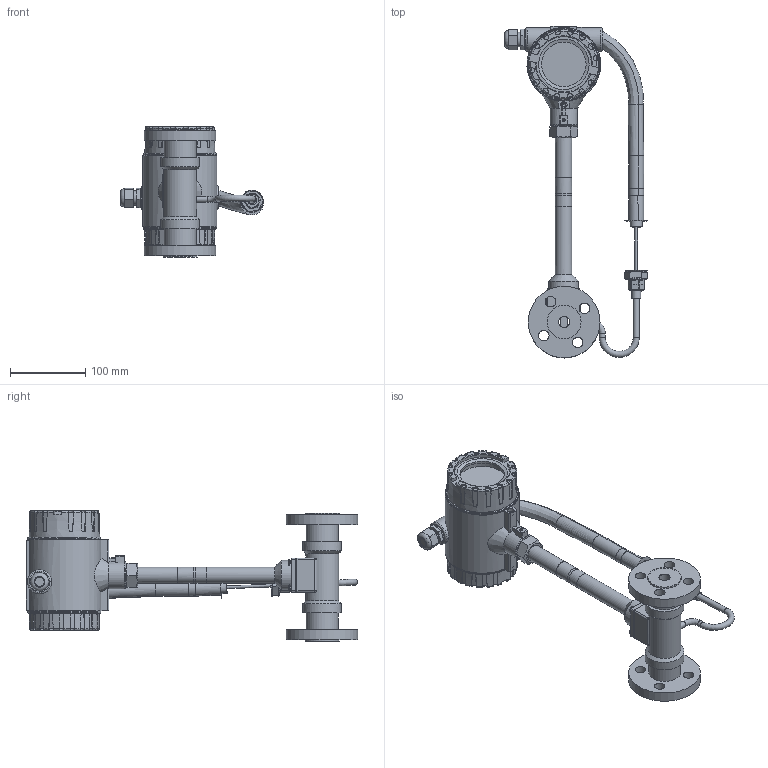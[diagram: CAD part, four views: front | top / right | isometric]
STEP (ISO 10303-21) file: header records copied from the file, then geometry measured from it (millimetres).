
FILE_DESCRIPTION(/* description */ ('STEP AP214'),/* implementation_level */ '2;1');
FILE_NAME(/* name */ 'DN15 vortex.step',/* time_stamp */ '2025-09-25T17:59:27+03:00',/* author */ (''),/* organization */ (''),/* preprocessor_version */ 'ST-DEVELOPER v20.1',/* originating_system */ 'Autodesk Translation Framework v14.10.0.0',/* authorisation */ '');
FILE_SCHEMA (('AUTOMOTIVE_DESIGN { 1 0 10303 214 3 1 1 }'));
Length unit declared in the file: millimetre
Products named in the file (1): DN100法兰连接装配体
Bounding box: 189.8 x 440.25 x 173.33 mm (x, y, z)
Volume: 1063725.6 mm3; surface area: 336042.6 mm2
Topology: 22 solids, 25 shells, 903 faces, 2223 edges, 1410 vertices
Faces by surface type: plane 515, cylinder 248, torus 59, cone 45, bspline 32, sphere 4
Full cylindrical faces by diameter (mm): 2.88 x1, 3.3 x1, 3.65 x2, 3.78 x8, 4.2 x2, 5.4 x8, 6 x4, 8 x4, 8.1 x1, 8.7 x2, 10 x1, 12 x1, 12.4 x1, 13 x1, 14 x9, 15 x3, 16 x2, 16.2 x2, 17.727 x4, 18 x4, 19 x7, 19.2 x2, 20.6 x1, 20.655 x1, 21.6 x2, 22.6 x1, 24.2 x1, 28 x2, 31.9 x2, 34.2 x1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
Entity records: 30983 total; most frequent: CARTESIAN_POINT 9219, DIRECTION 4699, ORIENTED_EDGE 4428, EDGE_CURVE 2214, AXIS2_PLACEMENT_3D 1785, VERTEX_POINT 1410, LINE 1129, VECTOR 1129
